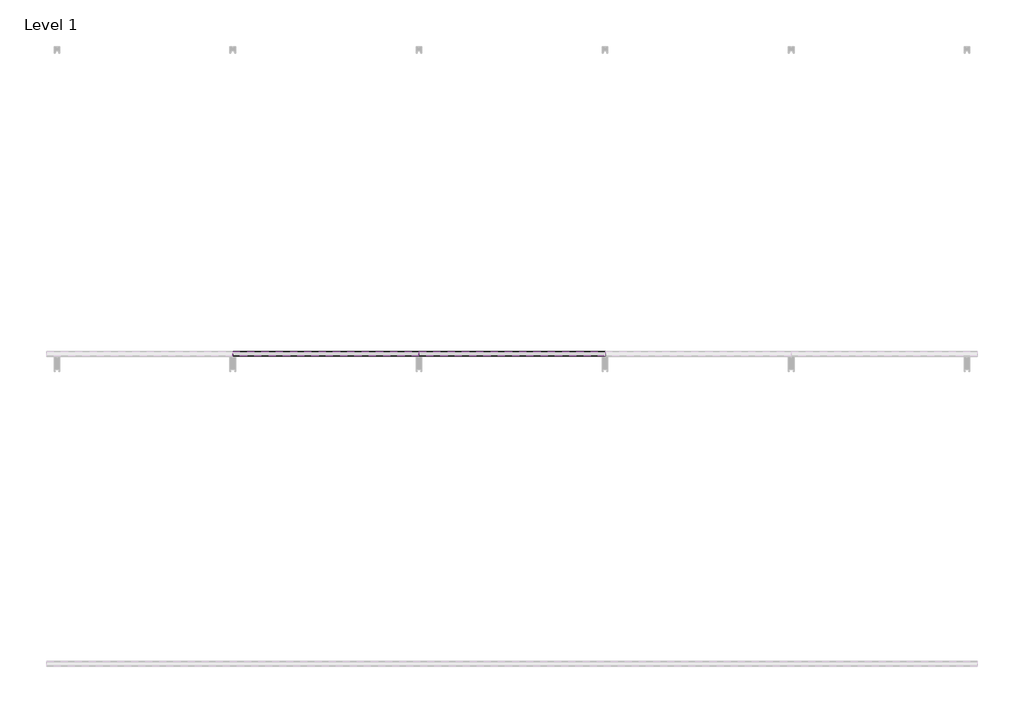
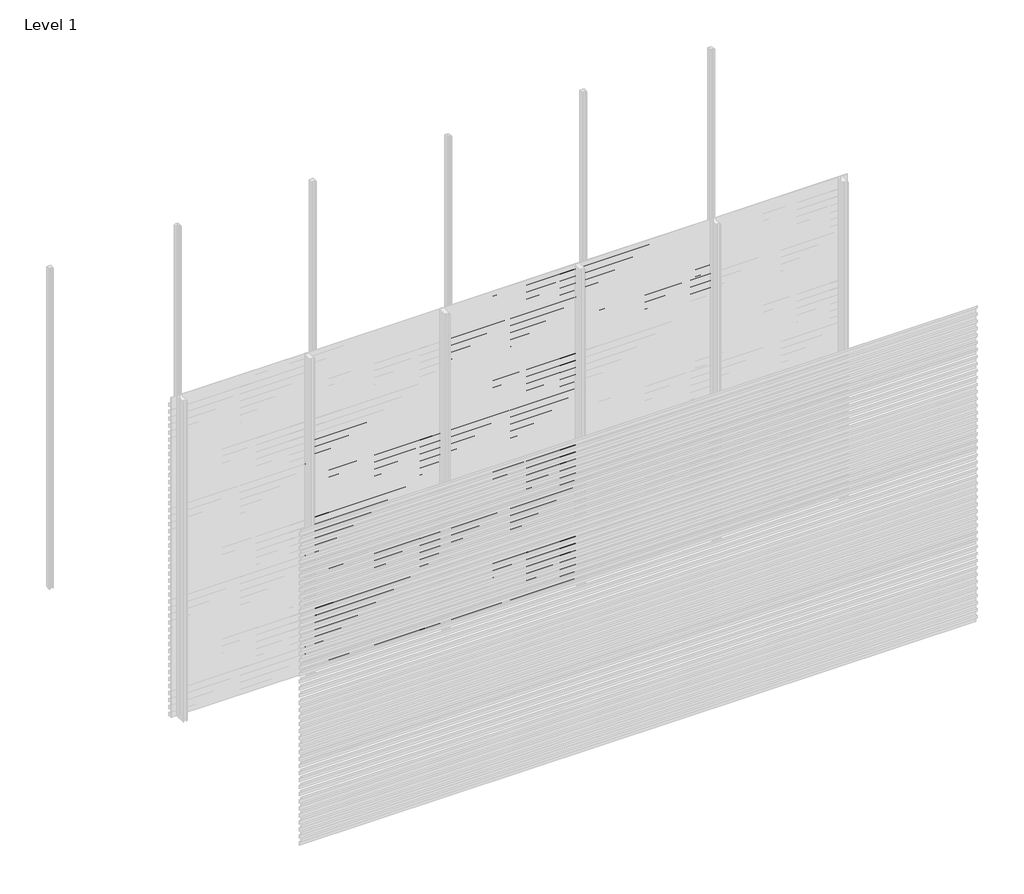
# One storey, part 23 of 33: 88 proxies.
"""IFC4 building model written with IfcOpenShell, lengths in millimetres."""

from ifc_helpers import new_model, si_unit, frame, origin, place, context, project, spatial, polyline, outline, extrude, element, save

model = new_model("IFC4")

# Units and contexts
model_context = context("Model", 3, world=origin())
ifc_project = project(units=[si_unit("LENGTHUNIT", "METRE", prefix="MILLI")], contexts=[model_context])

# Site, building, storey
site = spatial("IfcSite", under=ifc_project)
building = spatial("IfcBuilding", under=site)
storey = spatial("IfcBuildingStorey", under=building, Name="Level 1", Elevation=0.0)

# Proxies
placement = place(None, origin())
element("IfcBuildingElementProxy", 1, Name="Wall Sweeps", at=placement, inside=storey, context=model_context, shape_type="SweptSolid", body=[
    extrude(outline(polyline([(-17967.0, 2138.0), (-17967.0, 2105.0), (-17968.25, 2105.7216933), (-17968.25, 2137.2872415), (-17998.0, 2158.0588647), (-17998.0, 2178.0), (-17996.75, 2178.0), (-17996.75, 2158.7716232), (-17967.0, 2138.0)])), frame((1200.0, 0.0, 0.0), z_axis=(1.0, 0.0, 0.0), x_axis=(0.0, 1.0, 0.0)), (0.0, 0.0, 1.0), 1200.0),
])
element("IfcBuildingElementProxy", 2, Name="Wall Sweeps", at=placement, inside=storey, context=model_context, shape_type="SweptSolid", body=[
    extrude(outline(polyline([(-17967.0, 2072.0), (-17967.0, 2039.0), (-17968.25, 2039.7216933), (-17968.25, 2071.2872415), (-17998.0, 2092.0588647), (-17998.0, 2112.0), (-17996.75, 2112.0), (-17996.75, 2092.7716232), (-17967.0, 2072.0)])), frame((1200.0, 0.0, 0.0), z_axis=(1.0, 0.0, 0.0), x_axis=(0.0, 1.0, 0.0)), (0.0, 0.0, 1.0), 1200.0),
])
element("IfcBuildingElementProxy", 3, Name="Wall Sweeps", at=placement, inside=storey, context=model_context, shape_type="SweptSolid", body=[
    extrude(outline(polyline([(-17967.0, 2006.0), (-17967.0, 1973.0), (-17968.25, 1973.7216933), (-17968.25, 2005.2872415), (-17998.0, 2026.0588647), (-17998.0, 2046.0), (-17996.75, 2046.0), (-17996.75, 2026.7716232), (-17967.0, 2006.0)])), frame((1200.0, 0.0, 0.0), z_axis=(1.0, 0.0, 0.0), x_axis=(0.0, 1.0, 0.0)), (0.0, 0.0, 1.0), 1200.0),
])
element("IfcBuildingElementProxy", 4, Name="Wall Sweeps", at=placement, inside=storey, context=model_context, shape_type="SweptSolid", body=[
    extrude(outline(polyline([(-17967.0, 1940.0), (-17967.0, 1907.0), (-17968.25, 1907.7216933), (-17968.25, 1939.2872415), (-17998.0, 1960.0588647), (-17998.0, 1980.0), (-17996.75, 1980.0), (-17996.75, 1960.7716232), (-17967.0, 1940.0)])), frame((1200.0, 0.0, 0.0), z_axis=(1.0, 0.0, 0.0), x_axis=(0.0, 1.0, 0.0)), (0.0, 0.0, 1.0), 1200.0),
])
element("IfcBuildingElementProxy", 5, Name="Wall Sweeps", at=placement, inside=storey, context=model_context, shape_type="SweptSolid", body=[
    extrude(outline(polyline([(-17967.0, 1874.0), (-17967.0, 1841.0), (-17968.25, 1841.7216933), (-17968.25, 1873.2872415), (-17998.0, 1894.0588647), (-17998.0, 1914.0), (-17996.75, 1914.0), (-17996.75, 1894.7716232), (-17967.0, 1874.0)])), frame((1200.0, 0.0, 0.0), z_axis=(1.0, 0.0, 0.0), x_axis=(0.0, 1.0, 0.0)), (0.0, 0.0, 1.0), 1200.0),
])
element("IfcBuildingElementProxy", 6, Name="Wall Sweeps", at=placement, inside=storey, context=model_context, shape_type="SweptSolid", body=[
    extrude(outline(polyline([(-17967.0, 1808.0), (-17967.0, 1775.0), (-17968.25, 1775.7216933), (-17968.25, 1807.2872415), (-17998.0, 1828.0588647), (-17998.0, 1848.0), (-17996.75, 1848.0), (-17996.75, 1828.7716232), (-17967.0, 1808.0)])), frame((1200.0, 0.0, 0.0), z_axis=(1.0, 0.0, 0.0), x_axis=(0.0, 1.0, 0.0)), (0.0, 0.0, 1.0), 1200.0),
])
element("IfcBuildingElementProxy", 7, Name="Wall Sweeps", at=placement, inside=storey, context=model_context, shape_type="SweptSolid", body=[
    extrude(outline(polyline([(-17967.0, 1742.0), (-17967.0, 1709.0), (-17968.25, 1709.7216933), (-17968.25, 1741.2872415), (-17998.0, 1762.0588647), (-17998.0, 1782.0), (-17996.75, 1782.0), (-17996.75, 1762.7716232), (-17967.0, 1742.0)])), frame((1200.0, 0.0, 0.0), z_axis=(1.0, 0.0, 0.0), x_axis=(0.0, 1.0, 0.0)), (0.0, 0.0, 1.0), 1200.0),
])
element("IfcBuildingElementProxy", 8, Name="Wall Sweeps", at=placement, inside=storey, context=model_context, shape_type="SweptSolid", body=[
    extrude(outline(polyline([(-17967.0, 1676.0), (-17967.0, 1643.0), (-17968.25, 1643.7216933), (-17968.25, 1675.2872415), (-17998.0, 1696.0588647), (-17998.0, 1716.0), (-17996.75, 1716.0), (-17996.75, 1696.7716232), (-17967.0, 1676.0)])), frame((1200.0, 0.0, 0.0), z_axis=(1.0, 0.0, 0.0), x_axis=(0.0, 1.0, 0.0)), (0.0, 0.0, 1.0), 1200.0),
])
element("IfcBuildingElementProxy", 9, Name="Wall Sweeps", at=placement, inside=storey, context=model_context, shape_type="SweptSolid", body=[
    extrude(outline(polyline([(-17967.0, 1610.0), (-17967.0, 1577.0), (-17968.25, 1577.7216933), (-17968.25, 1609.2872415), (-17998.0, 1630.0588647), (-17998.0, 1650.0), (-17996.75, 1650.0), (-17996.75, 1630.7716232), (-17967.0, 1610.0)])), frame((1200.0, 0.0, 0.0), z_axis=(1.0, 0.0, 0.0), x_axis=(0.0, 1.0, 0.0)), (0.0, 0.0, 1.0), 1200.0),
])
element("IfcBuildingElementProxy", 10, Name="Wall Sweeps", at=placement, inside=storey, context=model_context, shape_type="SweptSolid", body=[
    extrude(outline(polyline([(-17967.0, 1544.0), (-17967.0, 1511.0), (-17968.25, 1511.7216933), (-17968.25, 1543.2872415), (-17998.0, 1564.0588647), (-17998.0, 1584.0), (-17996.75, 1584.0), (-17996.75, 1564.7716232), (-17967.0, 1544.0)])), frame((1200.0, 0.0, 0.0), z_axis=(1.0, 0.0, 0.0), x_axis=(0.0, 1.0, 0.0)), (0.0, 0.0, 1.0), 1200.0),
])
element("IfcBuildingElementProxy", 11, Name="Wall Sweeps", at=placement, inside=storey, context=model_context, shape_type="SweptSolid", body=[
    extrude(outline(polyline([(-17967.0, 1478.0), (-17967.0, 1445.0), (-17968.25, 1445.7216933), (-17968.25, 1477.2872415), (-17998.0, 1498.0588647), (-17998.0, 1518.0), (-17996.75, 1518.0), (-17996.75, 1498.7716232), (-17967.0, 1478.0)])), frame((1200.0, 0.0, 0.0), z_axis=(1.0, 0.0, 0.0), x_axis=(0.0, 1.0, 0.0)), (0.0, 0.0, 1.0), 1200.0),
])
element("IfcBuildingElementProxy", 12, Name="Wall Sweeps", at=placement, inside=storey, context=model_context, shape_type="SweptSolid", body=[
    extrude(outline(polyline([(-17967.0, 1412.0), (-17967.0, 1379.0), (-17968.25, 1379.7216933), (-17968.25, 1411.2872415), (-17998.0, 1432.0588647), (-17998.0, 1452.0), (-17996.75, 1452.0), (-17996.75, 1432.7716232), (-17967.0, 1412.0)])), frame((1200.0, 0.0, 0.0), z_axis=(1.0, 0.0, 0.0), x_axis=(0.0, 1.0, 0.0)), (0.0, 0.0, 1.0), 1200.0),
])
element("IfcBuildingElementProxy", 13, Name="Wall Sweeps", at=placement, inside=storey, context=model_context, shape_type="SweptSolid", body=[
    extrude(outline(polyline([(-17967.0, 1346.0), (-17967.0, 1313.0), (-17968.25, 1313.7216933), (-17968.25, 1345.2872415), (-17998.0, 1366.0588647), (-17998.0, 1386.0), (-17996.75, 1386.0), (-17996.75, 1366.7716232), (-17967.0, 1346.0)])), frame((1200.0, 0.0, 0.0), z_axis=(1.0, 0.0, 0.0), x_axis=(0.0, 1.0, 0.0)), (0.0, 0.0, 1.0), 1200.0),
])
element("IfcBuildingElementProxy", 14, Name="Wall Sweeps", at=placement, inside=storey, context=model_context, shape_type="SweptSolid", body=[
    extrude(outline(polyline([(-17967.0, 1280.0), (-17967.0, 1247.0), (-17968.25, 1247.7216933), (-17968.25, 1279.2872415), (-17998.0, 1300.0588647), (-17998.0, 1320.0), (-17996.75, 1320.0), (-17996.75, 1300.7716232), (-17967.0, 1280.0)])), frame((1200.0, 0.0, 0.0), z_axis=(1.0, 0.0, 0.0), x_axis=(0.0, 1.0, 0.0)), (0.0, 0.0, 1.0), 1200.0),
])
element("IfcBuildingElementProxy", 15, Name="Wall Sweeps", at=placement, inside=storey, context=model_context, shape_type="SweptSolid", body=[
    extrude(outline(polyline([(-17967.0, 1214.0), (-17967.0, 1181.0), (-17968.25, 1181.7216933), (-17968.25, 1213.2872415), (-17998.0, 1234.0588647), (-17998.0, 1254.0), (-17996.75, 1254.0), (-17996.75, 1234.7716232), (-17967.0, 1214.0)])), frame((1200.0, 0.0, 0.0), z_axis=(1.0, 0.0, 0.0), x_axis=(0.0, 1.0, 0.0)), (0.0, 0.0, 1.0), 1200.0),
])
element("IfcBuildingElementProxy", 16, Name="Wall Sweeps", at=placement, inside=storey, context=model_context, shape_type="SweptSolid", body=[
    extrude(outline(polyline([(-17967.0, 1148.0), (-17967.0, 1115.0), (-17968.25, 1115.7216933), (-17968.25, 1147.2872415), (-17998.0, 1168.0588647), (-17998.0, 1188.0), (-17996.75, 1188.0), (-17996.75, 1168.7716232), (-17967.0, 1148.0)])), frame((1200.0, 0.0, 0.0), z_axis=(1.0, 0.0, 0.0), x_axis=(0.0, 1.0, 0.0)), (0.0, 0.0, 1.0), 1200.0),
])
element("IfcBuildingElementProxy", 17, Name="Wall Sweeps", at=placement, inside=storey, context=model_context, shape_type="SweptSolid", body=[
    extrude(outline(polyline([(-17967.0, 1082.0), (-17967.0, 1049.0), (-17968.25, 1049.7216933), (-17968.25, 1081.2872415), (-17998.0, 1102.0588647), (-17998.0, 1122.0), (-17996.75, 1122.0), (-17996.75, 1102.7716232), (-17967.0, 1082.0)])), frame((1200.0, 0.0, 0.0), z_axis=(1.0, 0.0, 0.0), x_axis=(0.0, 1.0, 0.0)), (0.0, 0.0, 1.0), 1200.0),
])
element("IfcBuildingElementProxy", 18, Name="Wall Sweeps", at=placement, inside=storey, context=model_context, shape_type="SweptSolid", body=[
    extrude(outline(polyline([(-17967.0, 1016.0), (-17967.0, 983.0), (-17968.25, 983.7216933), (-17968.25, 1015.2872415), (-17998.0, 1036.0588647), (-17998.0, 1056.0), (-17996.75, 1056.0), (-17996.75, 1036.7716232), (-17967.0, 1016.0)])), frame((1200.0, 0.0, 0.0), z_axis=(1.0, 0.0, 0.0), x_axis=(0.0, 1.0, 0.0)), (0.0, 0.0, 1.0), 1200.0),
])
element("IfcBuildingElementProxy", 19, Name="Wall Sweeps", at=placement, inside=storey, context=model_context, shape_type="SweptSolid", body=[
    extrude(outline(polyline([(-17967.0, 950.0), (-17967.0, 917.0), (-17968.25, 917.7216933), (-17968.25, 949.2872415), (-17998.0, 970.0588647), (-17998.0, 990.0), (-17996.75, 990.0), (-17996.75, 970.7716232), (-17967.0, 950.0)])), frame((1200.0, 0.0, 0.0), z_axis=(1.0, 0.0, 0.0), x_axis=(0.0, 1.0, 0.0)), (0.0, 0.0, 1.0), 1200.0),
])
element("IfcBuildingElementProxy", 20, Name="Wall Sweeps", at=placement, inside=storey, context=model_context, shape_type="SweptSolid", body=[
    extrude(outline(polyline([(-17967.0, 884.0), (-17967.0, 851.0), (-17968.25, 851.7216933), (-17968.25, 883.2872415), (-17998.0, 904.0588647), (-17998.0, 924.0), (-17996.75, 924.0), (-17996.75, 904.7716232), (-17967.0, 884.0)])), frame((1200.0, 0.0, 0.0), z_axis=(1.0, 0.0, 0.0), x_axis=(0.0, 1.0, 0.0)), (0.0, 0.0, 1.0), 1200.0),
])
element("IfcBuildingElementProxy", 21, Name="Wall Sweeps", at=placement, inside=storey, context=model_context, shape_type="SweptSolid", body=[
    extrude(outline(polyline([(-17967.0, 818.0), (-17967.0, 785.0), (-17968.25, 785.7216933), (-17968.25, 817.2872415), (-17998.0, 838.0588647), (-17998.0, 858.0), (-17996.75, 858.0), (-17996.75, 838.7716232), (-17967.0, 818.0)])), frame((1200.0, 0.0, 0.0), z_axis=(1.0, 0.0, 0.0), x_axis=(0.0, 1.0, 0.0)), (0.0, 0.0, 1.0), 1200.0),
])
element("IfcBuildingElementProxy", 22, Name="Wall Sweeps", at=placement, inside=storey, context=model_context, shape_type="SweptSolid", body=[
    extrude(outline(polyline([(-17967.0, 752.0), (-17967.0, 719.0), (-17968.25, 719.7216933), (-17968.25, 751.2872415), (-17998.0, 772.0588647), (-17998.0, 792.0), (-17996.75, 792.0), (-17996.75, 772.7716232), (-17967.0, 752.0)])), frame((1200.0, 0.0, 0.0), z_axis=(1.0, 0.0, 0.0), x_axis=(0.0, 1.0, 0.0)), (0.0, 0.0, 1.0), 1200.0),
])
element("IfcBuildingElementProxy", 23, Name="Wall Sweeps", at=placement, inside=storey, context=model_context, shape_type="SweptSolid", body=[
    extrude(outline(polyline([(-17967.0, 686.0), (-17967.0, 653.0), (-17968.25, 653.7216933), (-17968.25, 685.2872415), (-17998.0, 706.0588647), (-17998.0, 726.0), (-17996.75, 726.0), (-17996.75, 706.7716232), (-17967.0, 686.0)])), frame((1200.0, 0.0, 0.0), z_axis=(1.0, 0.0, 0.0), x_axis=(0.0, 1.0, 0.0)), (0.0, 0.0, 1.0), 1200.0),
])
element("IfcBuildingElementProxy", 24, Name="Wall Sweeps", at=placement, inside=storey, context=model_context, shape_type="SweptSolid", body=[
    extrude(outline(polyline([(-17967.0, 620.0), (-17967.0, 587.0), (-17968.25, 587.7216933), (-17968.25, 619.2872415), (-17998.0, 640.0588647), (-17998.0, 660.0), (-17996.75, 660.0), (-17996.75, 640.7716232), (-17967.0, 620.0)])), frame((1200.0, 0.0, 0.0), z_axis=(1.0, 0.0, 0.0), x_axis=(0.0, 1.0, 0.0)), (0.0, 0.0, 1.0), 1200.0),
])
element("IfcBuildingElementProxy", 25, Name="Wall Sweeps", at=placement, inside=storey, context=model_context, shape_type="SweptSolid", body=[
    extrude(outline(polyline([(-17967.0, 554.0), (-17967.0, 521.0), (-17968.25, 521.7216933), (-17968.25, 553.2872415), (-17998.0, 574.0588647), (-17998.0, 594.0), (-17996.75, 594.0), (-17996.75, 574.7716232), (-17967.0, 554.0)])), frame((1200.0, 0.0, 0.0), z_axis=(1.0, 0.0, 0.0), x_axis=(0.0, 1.0, 0.0)), (0.0, 0.0, 1.0), 1200.0),
])
element("IfcBuildingElementProxy", 26, Name="Wall Sweeps", at=placement, inside=storey, context=model_context, shape_type="SweptSolid", body=[
    extrude(outline(polyline([(-17967.0, 488.0), (-17967.0, 455.0), (-17968.25, 455.7216933), (-17968.25, 487.2872415), (-17998.0, 508.0588647), (-17998.0, 528.0), (-17996.75, 528.0), (-17996.75, 508.7716232), (-17967.0, 488.0)])), frame((1200.0, 0.0, 0.0), z_axis=(1.0, 0.0, 0.0), x_axis=(0.0, 1.0, 0.0)), (0.0, 0.0, 1.0), 1200.0),
])
element("IfcBuildingElementProxy", 27, Name="Wall Sweeps", at=placement, inside=storey, context=model_context, shape_type="SweptSolid", body=[
    extrude(outline(polyline([(-17967.0, 422.0), (-17967.0, 389.0), (-17968.25, 389.7216933), (-17968.25, 421.2872415), (-17998.0, 442.0588647), (-17998.0, 462.0), (-17996.75, 462.0), (-17996.75, 442.7716232), (-17967.0, 422.0)])), frame((1200.0, 0.0, 0.0), z_axis=(1.0, 0.0, 0.0), x_axis=(0.0, 1.0, 0.0)), (0.0, 0.0, 1.0), 1200.0),
])
element("IfcBuildingElementProxy", 28, Name="Wall Sweeps", at=placement, inside=storey, context=model_context, shape_type="SweptSolid", body=[
    extrude(outline(polyline([(-17967.0, 356.0), (-17967.0, 323.0), (-17968.25, 323.7216933), (-17968.25, 355.2872415), (-17998.0, 376.0588647), (-17998.0, 396.0), (-17996.75, 396.0), (-17996.75, 376.7716232), (-17967.0, 356.0)])), frame((1200.0, 0.0, 0.0), z_axis=(1.0, 0.0, 0.0), x_axis=(0.0, 1.0, 0.0)), (0.0, 0.0, 1.0), 1200.0),
])
element("IfcBuildingElementProxy", 29, Name="Wall Sweeps", at=placement, inside=storey, context=model_context, shape_type="SweptSolid", body=[
    extrude(outline(polyline([(-17967.0, 290.0), (-17967.0, 257.0), (-17968.25, 257.7216933), (-17968.25, 289.2872415), (-17998.0, 310.0588647), (-17998.0, 330.0), (-17996.75, 330.0), (-17996.75, 310.7716232), (-17967.0, 290.0)])), frame((1200.0, 0.0, 0.0), z_axis=(1.0, 0.0, 0.0), x_axis=(0.0, 1.0, 0.0)), (0.0, 0.0, 1.0), 1200.0),
])
element("IfcBuildingElementProxy", 30, Name="Wall Sweeps", at=placement, inside=storey, context=model_context, shape_type="SweptSolid", body=[
    extrude(outline(polyline([(-17967.0, 224.0), (-17967.0, 191.0), (-17968.25, 191.7216933), (-17968.25, 223.2872415), (-17998.0, 244.0588647), (-17998.0, 264.0), (-17996.75, 264.0), (-17996.75, 244.7716232), (-17967.0, 224.0)])), frame((1200.0, 0.0, 0.0), z_axis=(1.0, 0.0, 0.0), x_axis=(0.0, 1.0, 0.0)), (0.0, 0.0, 1.0), 1200.0),
])
element("IfcBuildingElementProxy", 31, Name="Wall Sweeps", at=placement, inside=storey, context=model_context, shape_type="SweptSolid", body=[
    extrude(outline(polyline([(-17967.0, 158.0), (-17967.0, 125.0), (-17968.25, 125.7216933), (-17968.25, 157.2872415), (-17998.0, 178.0588647), (-17998.0, 198.0), (-17996.75, 198.0), (-17996.75, 178.7716232), (-17967.0, 158.0)])), frame((1200.0, 0.0, 0.0), z_axis=(1.0, 0.0, 0.0), x_axis=(0.0, 1.0, 0.0)), (0.0, 0.0, 1.0), 1200.0),
])
element("IfcBuildingElementProxy", 32, Name="Wall Sweeps", at=placement, inside=storey, context=model_context, shape_type="SweptSolid", body=[
    extrude(outline(polyline([(-17967.0, 92.0), (-17967.0, 59.0), (-17968.25, 59.7216933), (-17968.25, 91.2872415), (-17998.0, 112.0588647), (-17998.0, 132.0), (-17996.75, 132.0), (-17996.75, 112.7716232), (-17967.0, 92.0)])), frame((1200.0, 0.0, 0.0), z_axis=(1.0, 0.0, 0.0), x_axis=(0.0, 1.0, 0.0)), (0.0, 0.0, 1.0), 1200.0),
])
element("IfcBuildingElementProxy", 33, Name="Wall Sweeps", at=placement, inside=storey, context=model_context, shape_type="SweptSolid", body=[
    extrude(outline(polyline([(-17967.0, 26.0), (-17967.0, -7.0), (-17968.25, -6.2783067), (-17968.25, 25.2872415), (-17998.0, 46.0588647), (-17998.0, 66.0), (-17996.75, 66.0), (-17996.75, 46.7716232), (-17967.0, 26.0)])), frame((1200.0, 0.0, 0.0), z_axis=(1.0, 0.0, 0.0), x_axis=(0.0, 1.0, 0.0)), (0.0, 0.0, 1.0), 1200.0),
])
element("IfcBuildingElementProxy", 34, Name="Wall Sweeps", at=placement, inside=storey, context=model_context, shape_type="SweptSolid", body=[
    extrude(outline(polyline([(-17967.0, 2930.0), (-17967.0, 2897.0), (-17968.25, 2897.7216933), (-17968.25, 2929.2872415), (-17998.0, 2950.0588647), (-17998.0, 2970.0), (-17996.75, 2970.0), (-17996.75, 2950.7716232), (-17967.0, 2930.0)])), frame((2400.0, 0.0, 0.0), z_axis=(1.0, 0.0, 0.0), x_axis=(0.0, 1.0, 0.0)), (0.0, 0.0, 1.0), 1200.0),
])
element("IfcBuildingElementProxy", 35, Name="Wall Sweeps", at=placement, inside=storey, context=model_context, shape_type="SweptSolid", body=[
    extrude(outline(polyline([(-17967.0, 2864.0), (-17967.0, 2831.0), (-17968.25, 2831.7216933), (-17968.25, 2863.2872415), (-17998.0, 2884.0588647), (-17998.0, 2904.0), (-17996.75, 2904.0), (-17996.75, 2884.7716232), (-17967.0, 2864.0)])), frame((2400.0, 0.0, 0.0), z_axis=(1.0, 0.0, 0.0), x_axis=(0.0, 1.0, 0.0)), (0.0, 0.0, 1.0), 1200.0),
])
element("IfcBuildingElementProxy", 36, Name="Wall Sweeps", at=placement, inside=storey, context=model_context, shape_type="SweptSolid", body=[
    extrude(outline(polyline([(-17967.0, 2798.0), (-17967.0, 2765.0), (-17968.25, 2765.7216933), (-17968.25, 2797.2872415), (-17998.0, 2818.0588647), (-17998.0, 2838.0), (-17996.75, 2838.0), (-17996.75, 2818.7716232), (-17967.0, 2798.0)])), frame((2400.0, 0.0, 0.0), z_axis=(1.0, 0.0, 0.0), x_axis=(0.0, 1.0, 0.0)), (0.0, 0.0, 1.0), 1200.0),
])
element("IfcBuildingElementProxy", 37, Name="Wall Sweeps", at=placement, inside=storey, context=model_context, shape_type="SweptSolid", body=[
    extrude(outline(polyline([(-17967.0, 2732.0), (-17967.0, 2699.0), (-17968.25, 2699.7216933), (-17968.25, 2731.2872415), (-17998.0, 2752.0588647), (-17998.0, 2772.0), (-17996.75, 2772.0), (-17996.75, 2752.7716232), (-17967.0, 2732.0)])), frame((2400.0, 0.0, 0.0), z_axis=(1.0, 0.0, 0.0), x_axis=(0.0, 1.0, 0.0)), (0.0, 0.0, 1.0), 1200.0),
])
element("IfcBuildingElementProxy", 38, Name="Wall Sweeps", at=placement, inside=storey, context=model_context, shape_type="SweptSolid", body=[
    extrude(outline(polyline([(-17967.0, 2666.0), (-17967.0, 2633.0), (-17968.25, 2633.7216933), (-17968.25, 2665.2872415), (-17998.0, 2686.0588647), (-17998.0, 2706.0), (-17996.75, 2706.0), (-17996.75, 2686.7716232), (-17967.0, 2666.0)])), frame((2400.0, 0.0, 0.0), z_axis=(1.0, 0.0, 0.0), x_axis=(0.0, 1.0, 0.0)), (0.0, 0.0, 1.0), 1200.0),
])
element("IfcBuildingElementProxy", 39, Name="Wall Sweeps", at=placement, inside=storey, context=model_context, shape_type="SweptSolid", body=[
    extrude(outline(polyline([(-17967.0, 2600.0), (-17967.0, 2567.0), (-17968.25, 2567.7216933), (-17968.25, 2599.2872415), (-17998.0, 2620.0588647), (-17998.0, 2640.0), (-17996.75, 2640.0), (-17996.75, 2620.7716232), (-17967.0, 2600.0)])), frame((2400.0, 0.0, 0.0), z_axis=(1.0, 0.0, 0.0), x_axis=(0.0, 1.0, 0.0)), (0.0, 0.0, 1.0), 1200.0),
])
element("IfcBuildingElementProxy", 40, Name="Wall Sweeps", at=placement, inside=storey, context=model_context, shape_type="SweptSolid", body=[
    extrude(outline(polyline([(-17967.0, 2534.0), (-17967.0, 2501.0), (-17968.25, 2501.7216933), (-17968.25, 2533.2872415), (-17998.0, 2554.0588647), (-17998.0, 2574.0), (-17996.75, 2574.0), (-17996.75, 2554.7716232), (-17967.0, 2534.0)])), frame((2400.0, 0.0, 0.0), z_axis=(1.0, 0.0, 0.0), x_axis=(0.0, 1.0, 0.0)), (0.0, 0.0, 1.0), 1200.0),
])
element("IfcBuildingElementProxy", 41, Name="Wall Sweeps", at=placement, inside=storey, context=model_context, shape_type="SweptSolid", body=[
    extrude(outline(polyline([(-17967.0, 2468.0), (-17967.0, 2435.0), (-17968.25, 2435.7216933), (-17968.25, 2467.2872415), (-17998.0, 2488.0588647), (-17998.0, 2508.0), (-17996.75, 2508.0), (-17996.75, 2488.7716232), (-17967.0, 2468.0)])), frame((2400.0, 0.0, 0.0), z_axis=(1.0, 0.0, 0.0), x_axis=(0.0, 1.0, 0.0)), (0.0, 0.0, 1.0), 1200.0),
])
element("IfcBuildingElementProxy", 42, Name="Wall Sweeps", at=placement, inside=storey, context=model_context, shape_type="SweptSolid", body=[
    extrude(outline(polyline([(-17967.0, 2402.0), (-17967.0, 2369.0), (-17968.25, 2369.7216933), (-17968.25, 2401.2872415), (-17998.0, 2422.0588647), (-17998.0, 2442.0), (-17996.75, 2442.0), (-17996.75, 2422.7716232), (-17967.0, 2402.0)])), frame((2400.0, 0.0, 0.0), z_axis=(1.0, 0.0, 0.0), x_axis=(0.0, 1.0, 0.0)), (0.0, 0.0, 1.0), 1200.0),
])
element("IfcBuildingElementProxy", 43, Name="Wall Sweeps", at=placement, inside=storey, context=model_context, shape_type="SweptSolid", body=[
    extrude(outline(polyline([(-17967.0, 2336.0), (-17967.0, 2303.0), (-17968.25, 2303.7216933), (-17968.25, 2335.2872415), (-17998.0, 2356.0588647), (-17998.0, 2376.0), (-17996.75, 2376.0), (-17996.75, 2356.7716232), (-17967.0, 2336.0)])), frame((2400.0, 0.0, 0.0), z_axis=(1.0, 0.0, 0.0), x_axis=(0.0, 1.0, 0.0)), (0.0, 0.0, 1.0), 1200.0),
])
element("IfcBuildingElementProxy", 44, Name="Wall Sweeps", at=placement, inside=storey, context=model_context, shape_type="SweptSolid", body=[
    extrude(outline(polyline([(-17967.0, 2270.0), (-17967.0, 2237.0), (-17968.25, 2237.7216933), (-17968.25, 2269.2872415), (-17998.0, 2290.0588647), (-17998.0, 2310.0), (-17996.75, 2310.0), (-17996.75, 2290.7716232), (-17967.0, 2270.0)])), frame((2400.0, 0.0, 0.0), z_axis=(1.0, 0.0, 0.0), x_axis=(0.0, 1.0, 0.0)), (0.0, 0.0, 1.0), 1200.0),
])
element("IfcBuildingElementProxy", 45, Name="Wall Sweeps", at=placement, inside=storey, context=model_context, shape_type="SweptSolid", body=[
    extrude(outline(polyline([(-17967.0, 2204.0), (-17967.0, 2171.0), (-17968.25, 2171.7216933), (-17968.25, 2203.2872415), (-17998.0, 2224.0588647), (-17998.0, 2244.0), (-17996.75, 2244.0), (-17996.75, 2224.7716232), (-17967.0, 2204.0)])), frame((2400.0, 0.0, 0.0), z_axis=(1.0, 0.0, 0.0), x_axis=(0.0, 1.0, 0.0)), (0.0, 0.0, 1.0), 1200.0),
])
element("IfcBuildingElementProxy", 46, Name="Wall Sweeps", at=placement, inside=storey, context=model_context, shape_type="SweptSolid", body=[
    extrude(outline(polyline([(-17967.0, 2138.0), (-17967.0, 2105.0), (-17968.25, 2105.7216933), (-17968.25, 2137.2872415), (-17998.0, 2158.0588647), (-17998.0, 2178.0), (-17996.75, 2178.0), (-17996.75, 2158.7716232), (-17967.0, 2138.0)])), frame((2400.0, 0.0, 0.0), z_axis=(1.0, 0.0, 0.0), x_axis=(0.0, 1.0, 0.0)), (0.0, 0.0, 1.0), 1200.0),
])
element("IfcBuildingElementProxy", 47, Name="Wall Sweeps", at=placement, inside=storey, context=model_context, shape_type="SweptSolid", body=[
    extrude(outline(polyline([(-17967.0, 2072.0), (-17967.0, 2039.0), (-17968.25, 2039.7216933), (-17968.25, 2071.2872415), (-17998.0, 2092.0588647), (-17998.0, 2112.0), (-17996.75, 2112.0), (-17996.75, 2092.7716232), (-17967.0, 2072.0)])), frame((2400.0, 0.0, 0.0), z_axis=(1.0, 0.0, 0.0), x_axis=(0.0, 1.0, 0.0)), (0.0, 0.0, 1.0), 1200.0),
])
element("IfcBuildingElementProxy", 48, Name="Wall Sweeps", at=placement, inside=storey, context=model_context, shape_type="SweptSolid", body=[
    extrude(outline(polyline([(-17967.0, 2006.0), (-17967.0, 1973.0), (-17968.25, 1973.7216933), (-17968.25, 2005.2872415), (-17998.0, 2026.0588647), (-17998.0, 2046.0), (-17996.75, 2046.0), (-17996.75, 2026.7716232), (-17967.0, 2006.0)])), frame((2400.0, 0.0, 0.0), z_axis=(1.0, 0.0, 0.0), x_axis=(0.0, 1.0, 0.0)), (0.0, 0.0, 1.0), 1200.0),
])
element("IfcBuildingElementProxy", 49, Name="Wall Sweeps", at=placement, inside=storey, context=model_context, shape_type="SweptSolid", body=[
    extrude(outline(polyline([(-17967.0, 1940.0), (-17967.0, 1907.0), (-17968.25, 1907.7216933), (-17968.25, 1939.2872415), (-17998.0, 1960.0588647), (-17998.0, 1980.0), (-17996.75, 1980.0), (-17996.75, 1960.7716232), (-17967.0, 1940.0)])), frame((2400.0, 0.0, 0.0), z_axis=(1.0, 0.0, 0.0), x_axis=(0.0, 1.0, 0.0)), (0.0, 0.0, 1.0), 1200.0),
])
element("IfcBuildingElementProxy", 50, Name="Wall Sweeps", at=placement, inside=storey, context=model_context, shape_type="SweptSolid", body=[
    extrude(outline(polyline([(-17967.0, 1874.0), (-17967.0, 1841.0), (-17968.25, 1841.7216933), (-17968.25, 1873.2872415), (-17998.0, 1894.0588647), (-17998.0, 1914.0), (-17996.75, 1914.0), (-17996.75, 1894.7716232), (-17967.0, 1874.0)])), frame((2400.0, 0.0, 0.0), z_axis=(1.0, 0.0, 0.0), x_axis=(0.0, 1.0, 0.0)), (0.0, 0.0, 1.0), 1200.0),
])
element("IfcBuildingElementProxy", 51, Name="Wall Sweeps", at=placement, inside=storey, context=model_context, shape_type="SweptSolid", body=[
    extrude(outline(polyline([(-17967.0, 1808.0), (-17967.0, 1775.0), (-17968.25, 1775.7216933), (-17968.25, 1807.2872415), (-17998.0, 1828.0588647), (-17998.0, 1848.0), (-17996.75, 1848.0), (-17996.75, 1828.7716232), (-17967.0, 1808.0)])), frame((2400.0, 0.0, 0.0), z_axis=(1.0, 0.0, 0.0), x_axis=(0.0, 1.0, 0.0)), (0.0, 0.0, 1.0), 1200.0),
])
element("IfcBuildingElementProxy", 52, Name="Wall Sweeps", at=placement, inside=storey, context=model_context, shape_type="SweptSolid", body=[
    extrude(outline(polyline([(-17967.0, 1742.0), (-17967.0, 1709.0), (-17968.25, 1709.7216933), (-17968.25, 1741.2872415), (-17998.0, 1762.0588647), (-17998.0, 1782.0), (-17996.75, 1782.0), (-17996.75, 1762.7716232), (-17967.0, 1742.0)])), frame((2400.0, 0.0, 0.0), z_axis=(1.0, 0.0, 0.0), x_axis=(0.0, 1.0, 0.0)), (0.0, 0.0, 1.0), 1200.0),
])
element("IfcBuildingElementProxy", 53, Name="Wall Sweeps", at=placement, inside=storey, context=model_context, shape_type="SweptSolid", body=[
    extrude(outline(polyline([(-17967.0, 1676.0), (-17967.0, 1643.0), (-17968.25, 1643.7216933), (-17968.25, 1675.2872415), (-17998.0, 1696.0588647), (-17998.0, 1716.0), (-17996.75, 1716.0), (-17996.75, 1696.7716232), (-17967.0, 1676.0)])), frame((2400.0, 0.0, 0.0), z_axis=(1.0, 0.0, 0.0), x_axis=(0.0, 1.0, 0.0)), (0.0, 0.0, 1.0), 1200.0),
])
element("IfcBuildingElementProxy", 54, Name="Wall Sweeps", at=placement, inside=storey, context=model_context, shape_type="SweptSolid", body=[
    extrude(outline(polyline([(-17967.0, 1610.0), (-17967.0, 1577.0), (-17968.25, 1577.7216933), (-17968.25, 1609.2872415), (-17998.0, 1630.0588647), (-17998.0, 1650.0), (-17996.75, 1650.0), (-17996.75, 1630.7716232), (-17967.0, 1610.0)])), frame((2400.0, 0.0, 0.0), z_axis=(1.0, 0.0, 0.0), x_axis=(0.0, 1.0, 0.0)), (0.0, 0.0, 1.0), 1200.0),
])
element("IfcBuildingElementProxy", 55, Name="Wall Sweeps", at=placement, inside=storey, context=model_context, shape_type="SweptSolid", body=[
    extrude(outline(polyline([(-17967.0, 1544.0), (-17967.0, 1511.0), (-17968.25, 1511.7216933), (-17968.25, 1543.2872415), (-17998.0, 1564.0588647), (-17998.0, 1584.0), (-17996.75, 1584.0), (-17996.75, 1564.7716232), (-17967.0, 1544.0)])), frame((2400.0, 0.0, 0.0), z_axis=(1.0, 0.0, 0.0), x_axis=(0.0, 1.0, 0.0)), (0.0, 0.0, 1.0), 1200.0),
])
element("IfcBuildingElementProxy", 56, Name="Wall Sweeps", at=placement, inside=storey, context=model_context, shape_type="SweptSolid", body=[
    extrude(outline(polyline([(-17967.0, 1478.0), (-17967.0, 1445.0), (-17968.25, 1445.7216933), (-17968.25, 1477.2872415), (-17998.0, 1498.0588647), (-17998.0, 1518.0), (-17996.75, 1518.0), (-17996.75, 1498.7716232), (-17967.0, 1478.0)])), frame((2400.0, 0.0, 0.0), z_axis=(1.0, 0.0, 0.0), x_axis=(0.0, 1.0, 0.0)), (0.0, 0.0, 1.0), 1200.0),
])
element("IfcBuildingElementProxy", 57, Name="Wall Sweeps", at=placement, inside=storey, context=model_context, shape_type="SweptSolid", body=[
    extrude(outline(polyline([(-17967.0, 1412.0), (-17967.0, 1379.0), (-17968.25, 1379.7216933), (-17968.25, 1411.2872415), (-17998.0, 1432.0588647), (-17998.0, 1452.0), (-17996.75, 1452.0), (-17996.75, 1432.7716232), (-17967.0, 1412.0)])), frame((2400.0, 0.0, 0.0), z_axis=(1.0, 0.0, 0.0), x_axis=(0.0, 1.0, 0.0)), (0.0, 0.0, 1.0), 1200.0),
])
element("IfcBuildingElementProxy", 58, Name="Wall Sweeps", at=placement, inside=storey, context=model_context, shape_type="SweptSolid", body=[
    extrude(outline(polyline([(-17967.0, 1346.0), (-17967.0, 1313.0), (-17968.25, 1313.7216933), (-17968.25, 1345.2872415), (-17998.0, 1366.0588647), (-17998.0, 1386.0), (-17996.75, 1386.0), (-17996.75, 1366.7716232), (-17967.0, 1346.0)])), frame((2400.0, 0.0, 0.0), z_axis=(1.0, 0.0, 0.0), x_axis=(0.0, 1.0, 0.0)), (0.0, 0.0, 1.0), 1200.0),
])
element("IfcBuildingElementProxy", 59, Name="Wall Sweeps", at=placement, inside=storey, context=model_context, shape_type="SweptSolid", body=[
    extrude(outline(polyline([(-17967.0, 1280.0), (-17967.0, 1247.0), (-17968.25, 1247.7216933), (-17968.25, 1279.2872415), (-17998.0, 1300.0588647), (-17998.0, 1320.0), (-17996.75, 1320.0), (-17996.75, 1300.7716232), (-17967.0, 1280.0)])), frame((2400.0, 0.0, 0.0), z_axis=(1.0, 0.0, 0.0), x_axis=(0.0, 1.0, 0.0)), (0.0, 0.0, 1.0), 1200.0),
])
element("IfcBuildingElementProxy", 60, Name="Wall Sweeps", at=placement, inside=storey, context=model_context, shape_type="SweptSolid", body=[
    extrude(outline(polyline([(-17967.0, 1214.0), (-17967.0, 1181.0), (-17968.25, 1181.7216933), (-17968.25, 1213.2872415), (-17998.0, 1234.0588647), (-17998.0, 1254.0), (-17996.75, 1254.0), (-17996.75, 1234.7716232), (-17967.0, 1214.0)])), frame((2400.0, 0.0, 0.0), z_axis=(1.0, 0.0, 0.0), x_axis=(0.0, 1.0, 0.0)), (0.0, 0.0, 1.0), 1200.0),
])
element("IfcBuildingElementProxy", 61, Name="Wall Sweeps", at=placement, inside=storey, context=model_context, shape_type="SweptSolid", body=[
    extrude(outline(polyline([(-17967.0, 1148.0), (-17967.0, 1115.0), (-17968.25, 1115.7216933), (-17968.25, 1147.2872415), (-17998.0, 1168.0588647), (-17998.0, 1188.0), (-17996.75, 1188.0), (-17996.75, 1168.7716232), (-17967.0, 1148.0)])), frame((2400.0, 0.0, 0.0), z_axis=(1.0, 0.0, 0.0), x_axis=(0.0, 1.0, 0.0)), (0.0, 0.0, 1.0), 1200.0),
])
element("IfcBuildingElementProxy", 62, Name="Wall Sweeps", at=placement, inside=storey, context=model_context, shape_type="SweptSolid", body=[
    extrude(outline(polyline([(-17967.0, 1082.0), (-17967.0, 1049.0), (-17968.25, 1049.7216933), (-17968.25, 1081.2872415), (-17998.0, 1102.0588647), (-17998.0, 1122.0), (-17996.75, 1122.0), (-17996.75, 1102.7716232), (-17967.0, 1082.0)])), frame((2400.0, 0.0, 0.0), z_axis=(1.0, 0.0, 0.0), x_axis=(0.0, 1.0, 0.0)), (0.0, 0.0, 1.0), 1200.0),
])
element("IfcBuildingElementProxy", 63, Name="Wall Sweeps", at=placement, inside=storey, context=model_context, shape_type="SweptSolid", body=[
    extrude(outline(polyline([(-17967.0, 1016.0), (-17967.0, 983.0), (-17968.25, 983.7216933), (-17968.25, 1015.2872415), (-17998.0, 1036.0588647), (-17998.0, 1056.0), (-17996.75, 1056.0), (-17996.75, 1036.7716232), (-17967.0, 1016.0)])), frame((2400.0, 0.0, 0.0), z_axis=(1.0, 0.0, 0.0), x_axis=(0.0, 1.0, 0.0)), (0.0, 0.0, 1.0), 1200.0),
])
element("IfcBuildingElementProxy", 64, Name="Wall Sweeps", at=placement, inside=storey, context=model_context, shape_type="SweptSolid", body=[
    extrude(outline(polyline([(-17967.0, 950.0), (-17967.0, 917.0), (-17968.25, 917.7216933), (-17968.25, 949.2872415), (-17998.0, 970.0588647), (-17998.0, 990.0), (-17996.75, 990.0), (-17996.75, 970.7716232), (-17967.0, 950.0)])), frame((2400.0, 0.0, 0.0), z_axis=(1.0, 0.0, 0.0), x_axis=(0.0, 1.0, 0.0)), (0.0, 0.0, 1.0), 1200.0),
])
element("IfcBuildingElementProxy", 65, Name="Wall Sweeps", at=placement, inside=storey, context=model_context, shape_type="SweptSolid", body=[
    extrude(outline(polyline([(-17967.0, 884.0), (-17967.0, 851.0), (-17968.25, 851.7216933), (-17968.25, 883.2872415), (-17998.0, 904.0588647), (-17998.0, 924.0), (-17996.75, 924.0), (-17996.75, 904.7716232), (-17967.0, 884.0)])), frame((2400.0, 0.0, 0.0), z_axis=(1.0, 0.0, 0.0), x_axis=(0.0, 1.0, 0.0)), (0.0, 0.0, 1.0), 1200.0),
])
element("IfcBuildingElementProxy", 66, Name="Wall Sweeps", at=placement, inside=storey, context=model_context, shape_type="SweptSolid", body=[
    extrude(outline(polyline([(-17967.0, 818.0), (-17967.0, 785.0), (-17968.25, 785.7216933), (-17968.25, 817.2872415), (-17998.0, 838.0588647), (-17998.0, 858.0), (-17996.75, 858.0), (-17996.75, 838.7716232), (-17967.0, 818.0)])), frame((2400.0, 0.0, 0.0), z_axis=(1.0, 0.0, 0.0), x_axis=(0.0, 1.0, 0.0)), (0.0, 0.0, 1.0), 1200.0),
])
element("IfcBuildingElementProxy", 67, Name="Wall Sweeps", at=placement, inside=storey, context=model_context, shape_type="SweptSolid", body=[
    extrude(outline(polyline([(-17967.0, 752.0), (-17967.0, 719.0), (-17968.25, 719.7216933), (-17968.25, 751.2872415), (-17998.0, 772.0588647), (-17998.0, 792.0), (-17996.75, 792.0), (-17996.75, 772.7716232), (-17967.0, 752.0)])), frame((2400.0, 0.0, 0.0), z_axis=(1.0, 0.0, 0.0), x_axis=(0.0, 1.0, 0.0)), (0.0, 0.0, 1.0), 1200.0),
])
element("IfcBuildingElementProxy", 68, Name="Wall Sweeps", at=placement, inside=storey, context=model_context, shape_type="SweptSolid", body=[
    extrude(outline(polyline([(-17967.0, 686.0), (-17967.0, 653.0), (-17968.25, 653.7216933), (-17968.25, 685.2872415), (-17998.0, 706.0588647), (-17998.0, 726.0), (-17996.75, 726.0), (-17996.75, 706.7716232), (-17967.0, 686.0)])), frame((2400.0, 0.0, 0.0), z_axis=(1.0, 0.0, 0.0), x_axis=(0.0, 1.0, 0.0)), (0.0, 0.0, 1.0), 1200.0),
])
element("IfcBuildingElementProxy", 69, Name="Wall Sweeps", at=placement, inside=storey, context=model_context, shape_type="SweptSolid", body=[
    extrude(outline(polyline([(-17967.0, 620.0), (-17967.0, 587.0), (-17968.25, 587.7216933), (-17968.25, 619.2872415), (-17998.0, 640.0588647), (-17998.0, 660.0), (-17996.75, 660.0), (-17996.75, 640.7716232), (-17967.0, 620.0)])), frame((2400.0, 0.0, 0.0), z_axis=(1.0, 0.0, 0.0), x_axis=(0.0, 1.0, 0.0)), (0.0, 0.0, 1.0), 1200.0),
])
element("IfcBuildingElementProxy", 70, Name="Wall Sweeps", at=placement, inside=storey, context=model_context, shape_type="SweptSolid", body=[
    extrude(outline(polyline([(-17967.0, 554.0), (-17967.0, 521.0), (-17968.25, 521.7216933), (-17968.25, 553.2872415), (-17998.0, 574.0588647), (-17998.0, 594.0), (-17996.75, 594.0), (-17996.75, 574.7716232), (-17967.0, 554.0)])), frame((2400.0, 0.0, 0.0), z_axis=(1.0, 0.0, 0.0), x_axis=(0.0, 1.0, 0.0)), (0.0, 0.0, 1.0), 1200.0),
])
element("IfcBuildingElementProxy", 71, Name="Wall Sweeps", at=placement, inside=storey, context=model_context, shape_type="SweptSolid", body=[
    extrude(outline(polyline([(-17967.0, 488.0), (-17967.0, 455.0), (-17968.25, 455.7216933), (-17968.25, 487.2872415), (-17998.0, 508.0588647), (-17998.0, 528.0), (-17996.75, 528.0), (-17996.75, 508.7716232), (-17967.0, 488.0)])), frame((2400.0, 0.0, 0.0), z_axis=(1.0, 0.0, 0.0), x_axis=(0.0, 1.0, 0.0)), (0.0, 0.0, 1.0), 1200.0),
])
element("IfcBuildingElementProxy", 72, Name="Wall Sweeps", at=placement, inside=storey, context=model_context, shape_type="SweptSolid", body=[
    extrude(outline(polyline([(-17967.0, 422.0), (-17967.0, 389.0), (-17968.25, 389.7216933), (-17968.25, 421.2872415), (-17998.0, 442.0588647), (-17998.0, 462.0), (-17996.75, 462.0), (-17996.75, 442.7716232), (-17967.0, 422.0)])), frame((2400.0, 0.0, 0.0), z_axis=(1.0, 0.0, 0.0), x_axis=(0.0, 1.0, 0.0)), (0.0, 0.0, 1.0), 1200.0),
])
element("IfcBuildingElementProxy", 73, Name="Wall Sweeps", at=placement, inside=storey, context=model_context, shape_type="SweptSolid", body=[
    extrude(outline(polyline([(-17967.0, 356.0), (-17967.0, 323.0), (-17968.25, 323.7216933), (-17968.25, 355.2872415), (-17998.0, 376.0588647), (-17998.0, 396.0), (-17996.75, 396.0), (-17996.75, 376.7716232), (-17967.0, 356.0)])), frame((2400.0, 0.0, 0.0), z_axis=(1.0, 0.0, 0.0), x_axis=(0.0, 1.0, 0.0)), (0.0, 0.0, 1.0), 1200.0),
])
element("IfcBuildingElementProxy", 74, Name="Wall Sweeps", at=placement, inside=storey, context=model_context, shape_type="SweptSolid", body=[
    extrude(outline(polyline([(-17967.0, 290.0), (-17967.0, 257.0), (-17968.25, 257.7216933), (-17968.25, 289.2872415), (-17998.0, 310.0588647), (-17998.0, 330.0), (-17996.75, 330.0), (-17996.75, 310.7716232), (-17967.0, 290.0)])), frame((2400.0, 0.0, 0.0), z_axis=(1.0, 0.0, 0.0), x_axis=(0.0, 1.0, 0.0)), (0.0, 0.0, 1.0), 1200.0),
])
element("IfcBuildingElementProxy", 75, Name="Wall Sweeps", at=placement, inside=storey, context=model_context, shape_type="SweptSolid", body=[
    extrude(outline(polyline([(-17967.0, 224.0), (-17967.0, 191.0), (-17968.25, 191.7216933), (-17968.25, 223.2872415), (-17998.0, 244.0588647), (-17998.0, 264.0), (-17996.75, 264.0), (-17996.75, 244.7716232), (-17967.0, 224.0)])), frame((2400.0, 0.0, 0.0), z_axis=(1.0, 0.0, 0.0), x_axis=(0.0, 1.0, 0.0)), (0.0, 0.0, 1.0), 1200.0),
])
element("IfcBuildingElementProxy", 76, Name="Wall Sweeps", at=placement, inside=storey, context=model_context, shape_type="SweptSolid", body=[
    extrude(outline(polyline([(-17967.0, 158.0), (-17967.0, 125.0), (-17968.25, 125.7216933), (-17968.25, 157.2872415), (-17998.0, 178.0588647), (-17998.0, 198.0), (-17996.75, 198.0), (-17996.75, 178.7716232), (-17967.0, 158.0)])), frame((2400.0, 0.0, 0.0), z_axis=(1.0, 0.0, 0.0), x_axis=(0.0, 1.0, 0.0)), (0.0, 0.0, 1.0), 1200.0),
])
element("IfcBuildingElementProxy", 77, Name="Wall Sweeps", at=placement, inside=storey, context=model_context, shape_type="SweptSolid", body=[
    extrude(outline(polyline([(-17967.0, 92.0), (-17967.0, 59.0), (-17968.25, 59.7216933), (-17968.25, 91.2872415), (-17998.0, 112.0588647), (-17998.0, 132.0), (-17996.75, 132.0), (-17996.75, 112.7716232), (-17967.0, 92.0)])), frame((2400.0, 0.0, 0.0), z_axis=(1.0, 0.0, 0.0), x_axis=(0.0, 1.0, 0.0)), (0.0, 0.0, 1.0), 1200.0),
])
element("IfcBuildingElementProxy", 78, Name="Wall Sweeps", at=placement, inside=storey, context=model_context, shape_type="SweptSolid", body=[
    extrude(outline(polyline([(-17967.0, 26.0), (-17967.0, -7.0), (-17968.25, -6.2783067), (-17968.25, 25.2872415), (-17998.0, 46.0588647), (-17998.0, 66.0), (-17996.75, 66.0), (-17996.75, 46.7716232), (-17967.0, 26.0)])), frame((2400.0, 0.0, 0.0), z_axis=(1.0, 0.0, 0.0), x_axis=(0.0, 1.0, 0.0)), (0.0, 0.0, 1.0), 1200.0),
])
element("IfcBuildingElementProxy", 79, Name="Wall Sweeps", at=placement, inside=storey, context=model_context, shape_type="SweptSolid", body=[
    extrude(outline(polyline([(-17967.0, 2930.0), (-17967.0, 2897.0), (-17968.25, 2897.7216933), (-17968.25, 2929.2872415), (-17998.0, 2950.0588647), (-17998.0, 2970.0), (-17996.75, 2970.0), (-17996.75, 2950.7716232), (-17967.0, 2930.0)])), frame((3600.0, 0.0, 0.0), z_axis=(1.0, 0.0, 0.0), x_axis=(0.0, 1.0, 0.0)), (0.0, 0.0, 1.0), 1200.0),
])
element("IfcBuildingElementProxy", 80, Name="Wall Sweeps", at=placement, inside=storey, context=model_context, shape_type="SweptSolid", body=[
    extrude(outline(polyline([(-17967.0, 2864.0), (-17967.0, 2831.0), (-17968.25, 2831.7216933), (-17968.25, 2863.2872415), (-17998.0, 2884.0588647), (-17998.0, 2904.0), (-17996.75, 2904.0), (-17996.75, 2884.7716232), (-17967.0, 2864.0)])), frame((3600.0, 0.0, 0.0), z_axis=(1.0, 0.0, 0.0), x_axis=(0.0, 1.0, 0.0)), (0.0, 0.0, 1.0), 1200.0),
])
element("IfcBuildingElementProxy", 81, Name="Wall Sweeps", at=placement, inside=storey, context=model_context, shape_type="SweptSolid", body=[
    extrude(outline(polyline([(-17967.0, 2798.0), (-17967.0, 2765.0), (-17968.25, 2765.7216933), (-17968.25, 2797.2872415), (-17998.0, 2818.0588647), (-17998.0, 2838.0), (-17996.75, 2838.0), (-17996.75, 2818.7716232), (-17967.0, 2798.0)])), frame((3600.0, 0.0, 0.0), z_axis=(1.0, 0.0, 0.0), x_axis=(0.0, 1.0, 0.0)), (0.0, 0.0, 1.0), 1200.0),
])
element("IfcBuildingElementProxy", 82, Name="Wall Sweeps", at=placement, inside=storey, context=model_context, shape_type="SweptSolid", body=[
    extrude(outline(polyline([(-17967.0, 2732.0), (-17967.0, 2699.0), (-17968.25, 2699.7216933), (-17968.25, 2731.2872415), (-17998.0, 2752.0588647), (-17998.0, 2772.0), (-17996.75, 2772.0), (-17996.75, 2752.7716232), (-17967.0, 2732.0)])), frame((3600.0, 0.0, 0.0), z_axis=(1.0, 0.0, 0.0), x_axis=(0.0, 1.0, 0.0)), (0.0, 0.0, 1.0), 1200.0),
])
element("IfcBuildingElementProxy", 83, Name="Wall Sweeps", at=placement, inside=storey, context=model_context, shape_type="SweptSolid", body=[
    extrude(outline(polyline([(-17967.0, 2666.0), (-17967.0, 2633.0), (-17968.25, 2633.7216933), (-17968.25, 2665.2872415), (-17998.0, 2686.0588647), (-17998.0, 2706.0), (-17996.75, 2706.0), (-17996.75, 2686.7716232), (-17967.0, 2666.0)])), frame((3600.0, 0.0, 0.0), z_axis=(1.0, 0.0, 0.0), x_axis=(0.0, 1.0, 0.0)), (0.0, 0.0, 1.0), 1200.0),
])
element("IfcBuildingElementProxy", 84, Name="Wall Sweeps", at=placement, inside=storey, context=model_context, shape_type="SweptSolid", body=[
    extrude(outline(polyline([(-17967.0, 2600.0), (-17967.0, 2567.0), (-17968.25, 2567.7216933), (-17968.25, 2599.2872415), (-17998.0, 2620.0588647), (-17998.0, 2640.0), (-17996.75, 2640.0), (-17996.75, 2620.7716232), (-17967.0, 2600.0)])), frame((3600.0, 0.0, 0.0), z_axis=(1.0, 0.0, 0.0), x_axis=(0.0, 1.0, 0.0)), (0.0, 0.0, 1.0), 1200.0),
])
element("IfcBuildingElementProxy", 85, Name="Wall Sweeps", at=placement, inside=storey, context=model_context, shape_type="SweptSolid", body=[
    extrude(outline(polyline([(-17967.0, 2534.0), (-17967.0, 2501.0), (-17968.25, 2501.7216933), (-17968.25, 2533.2872415), (-17998.0, 2554.0588647), (-17998.0, 2574.0), (-17996.75, 2574.0), (-17996.75, 2554.7716232), (-17967.0, 2534.0)])), frame((3600.0, 0.0, 0.0), z_axis=(1.0, 0.0, 0.0), x_axis=(0.0, 1.0, 0.0)), (0.0, 0.0, 1.0), 1200.0),
])
element("IfcBuildingElementProxy", 86, Name="Wall Sweeps", at=placement, inside=storey, context=model_context, shape_type="SweptSolid", body=[
    extrude(outline(polyline([(-17967.0, 2468.0), (-17967.0, 2435.0), (-17968.25, 2435.7216933), (-17968.25, 2467.2872415), (-17998.0, 2488.0588647), (-17998.0, 2508.0), (-17996.75, 2508.0), (-17996.75, 2488.7716232), (-17967.0, 2468.0)])), frame((3600.0, 0.0, 0.0), z_axis=(1.0, 0.0, 0.0), x_axis=(0.0, 1.0, 0.0)), (0.0, 0.0, 1.0), 1200.0),
])
element("IfcBuildingElementProxy", 87, Name="Wall Sweeps", at=placement, inside=storey, context=model_context, shape_type="SweptSolid", body=[
    extrude(outline(polyline([(-17967.0, 2402.0), (-17967.0, 2369.0), (-17968.25, 2369.7216933), (-17968.25, 2401.2872415), (-17998.0, 2422.0588647), (-17998.0, 2442.0), (-17996.75, 2442.0), (-17996.75, 2422.7716232), (-17967.0, 2402.0)])), frame((3600.0, 0.0, 0.0), z_axis=(1.0, 0.0, 0.0), x_axis=(0.0, 1.0, 0.0)), (0.0, 0.0, 1.0), 1200.0),
])
element("IfcBuildingElementProxy", 88, Name="Wall Sweeps", at=placement, inside=storey, context=model_context, shape_type="SweptSolid", body=[
    extrude(outline(polyline([(-17967.0, 2336.0), (-17967.0, 2303.0), (-17968.25, 2303.7216933), (-17968.25, 2335.2872415), (-17998.0, 2356.0588647), (-17998.0, 2376.0), (-17996.75, 2376.0), (-17996.75, 2356.7716232), (-17967.0, 2336.0)])), frame((3600.0, 0.0, 0.0), z_axis=(1.0, 0.0, 0.0), x_axis=(0.0, 1.0, 0.0)), (0.0, 0.0, 1.0), 1200.0),
])

save(model, "model.ifc")
